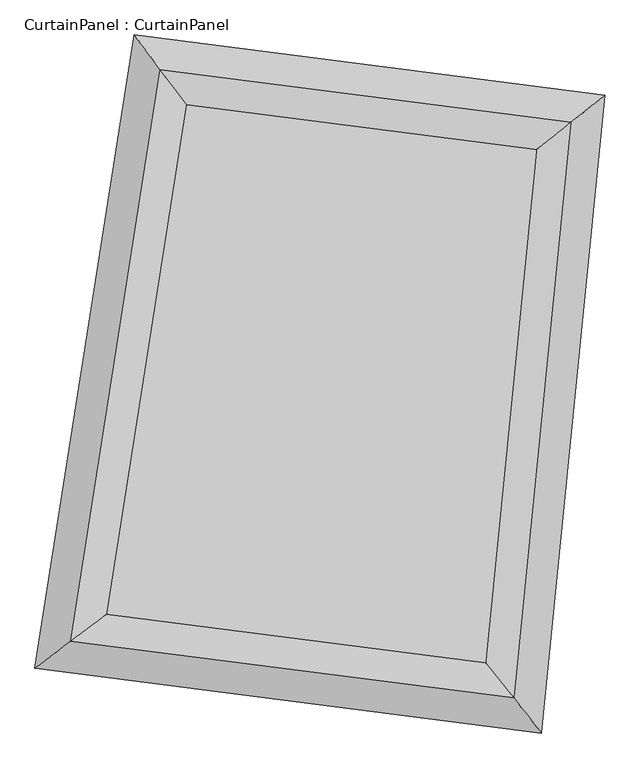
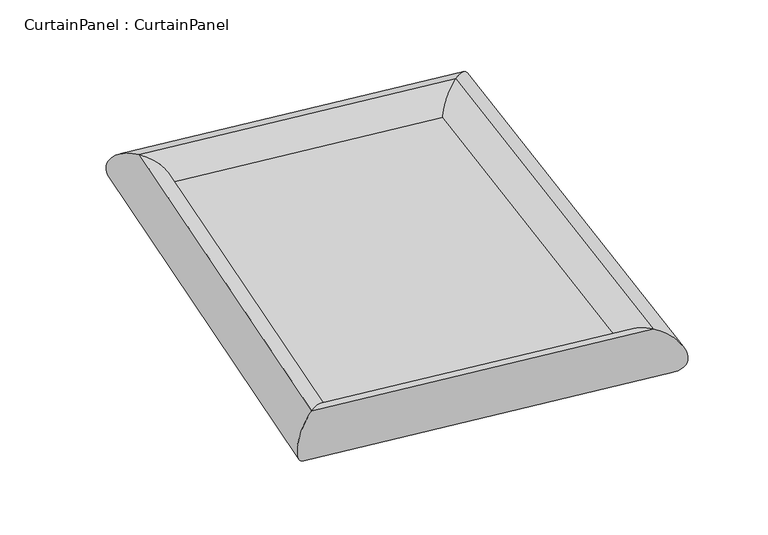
"""IFC4 building model written with IfcOpenShell, lengths in millimetres: plate geometry, CurtainPanel : CurtainPanel."""

import ifcopenshell
import ifcopenshell.guid

model = None  # the IFC model being written
_history = None  # IfcOwnerHistory: only IFC2X3 demands one
_inside = {}  # id of a spatial element -> (the spatial element, [elements in it])
_under = {}  # id of a project, library or spatial element -> (it, [spatial elements below it])
_declared = {}  # id of a project -> (the project, [libraries it declares])
_typed = {}  # id of a type object -> (the type object, [elements of that type])
_made_of = {}  # id of a material, layer set ... -> (it, [elements and type objects made of it])


def new_model(schema):
    """Start an empty IFC model of exactly this schema.

    Asked for "IFC4X3", IfcOpenShell would pick the latest addendum, in which some entities
    have other attributes; the version numbers below select the first issue.
    IFC2X3 requires an IfcOwnerHistory on every rooted entity: one is made here for all.
    """
    global model, _history
    if schema == "IFC4X3":
        model = ifcopenshell.file(schema_version=(4, 3, 0, 0))
    else:
        model = ifcopenshell.file(schema=schema)
    _inside.clear()
    _under.clear()
    _declared.clear()
    _typed.clear()
    _made_of.clear()
    _history = None
    if model.schema == "IFC2X3":
        org = make("IfcOrganization", Name="unknown")
        user = make(
            "IfcPersonAndOrganization",
            ThePerson=make("IfcPerson", FamilyName="unknown"),
            TheOrganization=org,
        )
        app = make(
            "IfcApplication",
            ApplicationDeveloper=org,
            Version="unknown",
            ApplicationFullName="unknown",
            ApplicationIdentifier="unknown",
        )
        _history = make(
            "IfcOwnerHistory",
            OwningUser=user,
            OwningApplication=app,
            ChangeAction="ADDED",
            CreationDate=0,
        )
    return model


def make(cls, **values):
    """One entity of the class cls with the attributes given. An attribute that is None is left unset."""
    return model.create_entity(
        cls, **{name: value for name, value in values.items() if value is not None}
    )


def rooted(cls, **values):
    """An entity with a GlobalId (a new one), such as an element, a storey or a relation."""
    return make(cls, GlobalId=ifcopenshell.guid.new(), OwnerHistory=_history, **values)


def si_unit(unit_type, name, prefix=None):
    """IfcSIUnit, for example si_unit("LENGTHUNIT", "METRE", prefix="MILLI")."""
    return make("IfcSIUnit", UnitType=unit_type, Prefix=prefix, Name=name)


def assignment(units):
    """IfcUnitAssignment: the units of a project."""
    return None if units is None else make("IfcUnitAssignment", Units=units)


def point(xyz):
    """IfcCartesianPoint."""
    return None if xyz is None else make("IfcCartesianPoint", Coordinates=xyz)


def direction(xyz):
    """IfcDirection."""
    return None if xyz is None else make("IfcDirection", DirectionRatios=xyz)


def frame(location, z_axis=None, x_axis=None):
    """IfcAxis2Placement3D, a coordinate frame: its origin and axes. An axis left out is left unset."""
    return make(
        "IfcAxis2Placement3D",
        Location=point(location),
        Axis=direction(z_axis),
        RefDirection=direction(x_axis),
    )


def origin():
    """The frame at (0, 0, 0) with its axes left unset."""
    return frame((0.0, 0.0, 0.0))


def origin_with_axes():
    """The frame at (0, 0, 0) with the z axis (0, 0, 1) and the x axis (1, 0, 0) written out."""
    return frame((0.0, 0.0, 0.0), z_axis=(0.0, 0.0, 1.0), x_axis=(1.0, 0.0, 0.0))


def place(relative_to, where):
    """IfcLocalPlacement: puts the frame where relative to a parent placement (None: the world)."""
    return make(
        "IfcLocalPlacement", PlacementRelTo=relative_to, RelativePlacement=where
    )


def context(
    kind, dimensions, precision=None, world=None, true_north=None, identifier=None
):
    """IfcGeometricRepresentationContext, for example the 3D "Model" context."""
    return make(
        "IfcGeometricRepresentationContext",
        ContextIdentifier=identifier,
        ContextType=kind,
        CoordinateSpaceDimension=dimensions,
        Precision=precision,
        WorldCoordinateSystem=world,
        TrueNorth=true_north,
    )


def project(units=None, contexts=None):
    """IfcProject with its units and contexts."""
    return rooted(
        "IfcProject",
        Name="project",
        RepresentationContexts=contexts,
        UnitsInContext=assignment(units),
    )


def spatial(cls, under=None, at=None, **own):
    """A site, building, storey or space (cls), placed at a placement, below another one or the project."""
    s = rooted(cls, ObjectPlacement=at, **own)
    if under is not None:
        _under.setdefault(under.id(), (under, []))[1].append(s)
    return s


def polyline(points):
    """IfcPolyline through the points."""
    return make("IfcPolyline", Points=[point(p) for p in points])


def ellipse_curve(where, semi_axis1, semi_axis2):
    """IfcEllipse in the frame where."""
    return make(
        "IfcEllipse", Position=where, SemiAxis1=semi_axis1, SemiAxis2=semi_axis2
    )


def outline(outer, holes=None, kind="AREA"):
    """IfcArbitraryClosedProfileDef: a profile drawn as a closed curve; with holes, ...WithVoids."""
    if holes is None:
        return make("IfcArbitraryClosedProfileDef", ProfileType=kind, OuterCurve=outer)
    return make(
        "IfcArbitraryProfileDefWithVoids",
        ProfileType=kind,
        OuterCurve=outer,
        InnerCurves=holes,
    )


def extrude(swept, where, along, depth):
    """IfcExtrudedAreaSolid: the profile swept, set in the frame where, extruded along a direction by depth."""
    return make(
        "IfcExtrudedAreaSolid",
        SweptArea=swept,
        Position=where,
        ExtrudedDirection=direction(along),
        Depth=depth,
    )


def shape(context_of_items, identifier, shape_type, items):
    """IfcShapeRepresentation: the items that make up one representation, for example the "Body"."""
    return make(
        "IfcShapeRepresentation",
        ContextOfItems=context_of_items,
        RepresentationIdentifier=identifier,
        RepresentationType=shape_type,
        Items=items,
    )


def source(mapping_origin, context_of_items, identifier, shape_type, items):
    """IfcRepresentationMap: a shape defined once, which mapped items show again and again."""
    return make(
        "IfcRepresentationMap",
        MappingOrigin=mapping_origin,
        MappedRepresentation=shape(context_of_items, identifier, shape_type, items),
    )


def transform(
    local_origin,
    x_axis=None,
    y_axis=None,
    z_axis=None,
    scale=None,
    scale2=None,
    scale3=None,
    uniform=True,
):
    """IfcCartesianTransformationOperator3D, or its non-uniform kind. x_axis, y_axis, z_axis: its Axis1, 2, 3."""
    if uniform:
        return make(
            "IfcCartesianTransformationOperator3D",
            Axis1=direction(x_axis),
            Axis2=direction(y_axis),
            LocalOrigin=point(local_origin),
            Scale=scale,
            Axis3=direction(z_axis),
        )
    return make(
        "IfcCartesianTransformationOperator3DnonUniform",
        Axis1=direction(x_axis),
        Axis2=direction(y_axis),
        LocalOrigin=point(local_origin),
        Scale=scale,
        Axis3=direction(z_axis),
        Scale2=scale2,
        Scale3=scale3,
    )


def mapped(mapping_source, mapping_target):
    """IfcMappedItem: shows the shape of a source again, moved by a transform."""
    return make(
        "IfcMappedItem", MappingSource=mapping_source, MappingTarget=mapping_target
    )


def made_of(thing, what):
    """Note that an element or type object is made of a material, layer set ...; save() writes the relation."""
    if what is not None:
        _made_of.setdefault(what.id(), (what, []))[1].append(thing)
    return thing


def element(
    cls,
    number,
    at=None,
    inside=None,
    cuts=None,
    type_object=None,
    material=None,
    context=None,
    identifier="Body",
    shape_type=None,
    held_by="IfcProductDefinitionShape",
    body=None,
    shapes=None,
    **own,
):
    """One element of the class cls, such as IfcWall. Its Tag is "e" and its number.

    at: its placement. inside: the storey or other place that contains it. cuts: it is an
    opening in that element (IfcRelVoidsElement). A single representation is given by context,
    identifier, shape_type and body (its items); several are given by shapes. held_by: the class
    of the entity that holds the representations. save() writes the other relations.
    """
    e = rooted(cls, Tag="e%d" % number, ObjectPlacement=at, **own)
    if body is not None:
        shapes = [shape(context, identifier, shape_type, body)]
    if shapes is not None:
        e.Representation = make(held_by, Representations=shapes)
    if inside is not None:
        _inside.setdefault(inside.id(), (inside, []))[1].append(e)
    if cuts is not None:
        rooted(
            "IfcRelVoidsElement", RelatingBuildingElement=cuts, RelatedOpeningElement=e
        )
    if type_object is not None:
        _typed.setdefault(type_object.id(), (type_object, []))[1].append(e)
    return made_of(e, material)


def aggregate(whole, parts):
    """IfcRelAggregates: a whole, such as a stair, and the parts it consists of."""
    return rooted("IfcRelAggregates", RelatingObject=whole, RelatedObjects=parts)


def save(model, path):
    """Write the relations noted so far, then the file.

    IfcRelAggregates (storeys below a building ...), IfcRelContainedInSpatialStructure (elements
    in a storey), IfcRelDefinesByType, IfcRelAssociatesMaterial and IfcRelDeclares: one each for
    every whole, place, type object, material and project.
    """
    for whole, parts in _under.values():
        aggregate(whole, parts)
    for where, things in _inside.values():
        rooted(
            "IfcRelContainedInSpatialStructure",
            RelatedElements=things,
            RelatingStructure=where,
        )
    for kind, things in _typed.values():
        rooted("IfcRelDefinesByType", RelatedObjects=things, RelatingType=kind)
    for what, things in _made_of.values():
        rooted("IfcRelAssociatesMaterial", RelatedObjects=things, RelatingMaterial=what)
    for by, libraries in _declared.values():
        rooted("IfcRelDeclares", RelatingContext=by, RelatedDefinitions=libraries)
    model.write(path)


def cylinder_surface(at, radius):
    """IfcCylindricalSurface: all points at the distance radius from the z axis of the frame at."""
    return make("IfcCylindricalSurface", Position=at, Radius=radius)


def advanced_brep(points, edges, surfaces, faces):
    """IfcAdvancedBrep: a solid bounded by faces that lie on surfaces and meet in shared edges.

    An edge is (start, end): straight between two places in points (the first is 0);
    or (start, end, curve); or (start, end, curve, False) where it runs against its curve.
    A face is (place in surfaces, loops), or (place, loops, False) where it looks against
    its surface's normal. A loop lists edges by number (the first is 1), with a minus sign
    where the edge is run from its end to its start. The first loop is the outer one.
    """
    corners = [point(p) for p in points]
    vertices = [make("IfcVertexPoint", VertexGeometry=c) for c in corners]
    made = []
    for start, end, *more in edges:
        made.append(
            make(
                "IfcEdgeCurve",
                EdgeStart=vertices[start],
                EdgeEnd=vertices[end],
                EdgeGeometry=more[0] if more else make("IfcPolyline", Points=[corners[start], corners[end]]),
                SameSense=more[1] if len(more) > 1 else True,
            )
        )
    hull = []
    for where, loops, *sense in faces:
        bounds = []
        for j, loop in enumerate(loops):
            ring = [make("IfcOrientedEdge", EdgeElement=made[abs(k) - 1], Orientation=k > 0) for k in loop]
            bounds.append(
                make(
                    "IfcFaceOuterBound" if j == 0 else "IfcFaceBound",
                    Bound=make("IfcEdgeLoop", EdgeList=ring),
                    Orientation=True,
                )
            )
        hull.append(make("IfcAdvancedFace", Bounds=bounds, FaceSurface=surfaces[where], SameSense=sense[0] if sense else True))
    return make("IfcAdvancedBrep", Outer=make("IfcClosedShell", CfsFaces=hull))


def curtainpanel_curtainpanel_3dfde4fb(model_context):
    return source(origin(), model_context, "Body", "SolidModel", [
        extrude(outline(polyline([(2759.2820077, 2759.2820077), (3388.2731669, 6768.2195377), (6270.6807461, 6399.3131084), (5869.7640793, 2361.1853462), (2759.2820077, 2759.2820077)])), origin_with_axes(), (0.0, 0.0, 1.0), 20.0),
        advanced_brep(
        [(2759.2820077, 2759.2820077, -220.0), (2759.2820077, 2759.2820077, 220.0), (5869.7640793, 2361.1853462, 220.0), (5869.7640793, 2361.1853462, -220.0), (6270.6807461, 6399.3131084, 220.0), (6270.6807461, 6399.3131084, -220.0), (3388.2731669, 6768.2195377, 220.0), (3388.2731669, 6768.2195377, -220.0)],
        [
            (0, 1, ellipse_curve(frame((2759.2820077, 2759.2820077, 0.0), z_axis=(0.6003487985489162, -0.7997382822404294, 0.0), x_axis=(-0.7997382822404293, -0.6003487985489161, 0.0)), 315.6301979, 220.0)),
            (1, 2),
            (2, 3, ellipse_curve(frame((5869.7640793, 2361.1853462, 0.0), z_axis=(-0.7824086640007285, -0.622765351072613, 0.0), x_axis=(-0.6227653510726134, 0.7824086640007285, 0.0)), 315.6301979, 220.0)),
            (3, 0),
            (1, 0, ellipse_curve(frame((2759.2820077, 2759.2820077, 0.0), z_axis=(0.6003487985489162, -0.7997382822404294, 0.0), x_axis=(-0.7997382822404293, -0.6003487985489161, 0.0)), 315.6301979, 220.0)),
            (3, 2, ellipse_curve(frame((5869.7640793, 2361.1853462, 0.0), z_axis=(-0.7824086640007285, -0.622765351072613, 0.0), x_axis=(-0.6227653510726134, 0.7824086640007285, 0.0)), 315.6301979, 220.0)),
            (2, 4),
            (4, 5, ellipse_curve(frame((6270.6807461, 6399.3131084, 0.0), z_axis=(0.622765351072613, -0.7824086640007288, 0.0), x_axis=(-0.782408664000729, -0.6227653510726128, 0.0)), 306.8111753, 220.0)),
            (5, 3),
            (5, 4, ellipse_curve(frame((6270.6807461, 6399.3131084, 0.0), z_axis=(0.622765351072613, -0.7824086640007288, 0.0), x_axis=(-0.782408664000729, -0.6227653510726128, 0.0)), 306.8111753, 220.0)),
            (4, 6),
            (6, 7, ellipse_curve(frame((3388.2731669, 6768.2195377, 0.0), z_axis=(0.7997382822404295, 0.600348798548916, 0.0), x_axis=(0.6003487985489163, -0.7997382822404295, 0.0)), 306.8111753, 220.0)),
            (7, 5),
            (7, 6, ellipse_curve(frame((3388.2731669, 6768.2195377, 0.0), z_axis=(0.7997382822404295, 0.600348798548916, 0.0), x_axis=(0.6003487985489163, -0.7997382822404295, 0.0)), 306.8111753, 220.0)),
            (6, 1),
            (0, 7),
        ],
        [
            cylinder_surface(frame((2759.2820077, 2759.2820077, 0.0), z_axis=(-0.9919091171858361, 0.12695000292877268, 0.0), x_axis=(0.12695000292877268, 0.9919091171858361, 0.0)), 220.0),
            cylinder_surface(frame((5869.7640793, 2361.1853462, 0.0), z_axis=(-0.09879707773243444, -0.9951076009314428, 0.0), x_axis=(-0.9951076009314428, 0.09879707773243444, 0.0)), 220.0),
            cylinder_surface(frame((6270.6807461, 6399.3131084, 0.0), z_axis=(0.9919091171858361, -0.12695000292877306, 0.0), x_axis=(-0.12695000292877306, -0.9919091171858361, 0.0)), 220.0),
            cylinder_surface(frame((3388.2731669, 6768.2195377, 0.0), z_axis=(0.1550010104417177, 0.9879143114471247, 0.0), x_axis=(0.9879143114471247, -0.1550010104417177, 0.0)), 220.0),
        ],
        [
            (0, [[1, 2, 3, 4]]),
            (0, [[5, -4, 6, -2]]),
            (1, [[-3, 7, 8, 9]]),
            (1, [[-6, -9, 10, -7]]),
            (2, [[-8, 11, 12, 13]]),
            (2, [[-10, -13, 14, -11]]),
            (3, [[-12, 15, -1, 16]]),
            (3, [[-14, -16, -5, -15]]),
        ],
    ),
    ])


if __name__ == "__main__":
    model = new_model("IFC4")
    model_context = context("Model", 3, world=origin())
    ifc_project = project(units=[si_unit("LENGTHUNIT", "METRE", prefix="MILLI")], contexts=[model_context])
    site = spatial("IfcSite", under=ifc_project)
    building = spatial("IfcBuilding", under=site)
    placement = place(None, origin())
    curtainpanel_curtainpanel_shape = curtainpanel_curtainpanel_3dfde4fb(model_context)
    element("IfcPlate", 1, ObjectType="CurtainPanel : CurtainPanel", at=placement, inside=building, context=model_context, shape_type="MappedRepresentation", body=[
        mapped(curtainpanel_curtainpanel_shape, transform((0.0, 0.0, 0.0), x_axis=(1.0, 0.0, 0.0), y_axis=(0.0, 1.0, 0.0), z_axis=(0.0, 0.0, 1.0))),
    ])
    save(model, "model.ifc")
